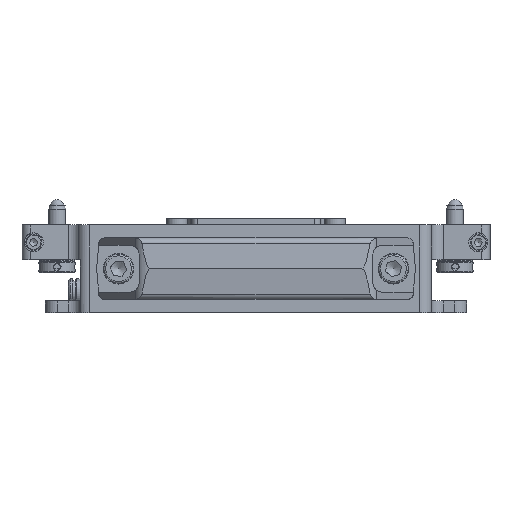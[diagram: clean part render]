
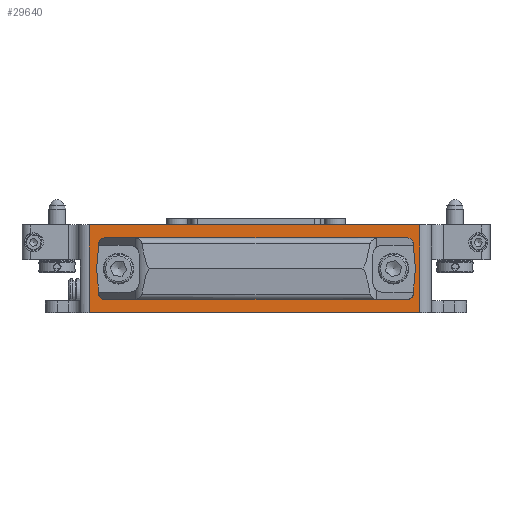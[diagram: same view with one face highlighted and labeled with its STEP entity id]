
A CAD part, left-side view. The second image highlights one B-rep face of the part: STEP entity #29640.
In plain terms, the highlighted planar face has unit normal (-1, 0, 0).
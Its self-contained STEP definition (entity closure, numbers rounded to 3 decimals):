
#1135=CIRCLE('',#31572,3.1);
#1136=CIRCLE('',#31573,3.1);
#2351=FACE_BOUND('',#5142,.T.);
#2352=FACE_BOUND('',#5143,.T.);
#3399=FACE_OUTER_BOUND('',#5141,.T.);
#5141=EDGE_LOOP('',(#22246,#22247,#22248,#22249));
#5142=EDGE_LOOP('',(#22250));
#5143=EDGE_LOOP('',(#22251));
#6990=LINE('',#47199,#9499);
#7394=LINE('',#52312,#9903);
#7395=LINE('',#52316,#9904);
#7396=LINE('',#52317,#9905);
#9499=VECTOR('',#34598,10.);
#9903=VECTOR('',#35306,10.);
#9904=VECTOR('',#35311,10.);
#9905=VECTOR('',#35312,10.);
#12689=VERTEX_POINT('',#47117);
#12729=VERTEX_POINT('',#47197);
#13230=VERTEX_POINT('',#52311);
#13231=VERTEX_POINT('',#52315);
#13232=VERTEX_POINT('',#52318);
#13233=VERTEX_POINT('',#52320);
#15827=EDGE_CURVE('',#12729,#12689,#6990,.T.);
#16541=EDGE_CURVE('',#12689,#13230,#7394,.T.);
#16543=EDGE_CURVE('',#13231,#12729,#7395,.T.);
#16544=EDGE_CURVE('',#13231,#13230,#7396,.T.);
#16545=EDGE_CURVE('',#13232,#13232,#1135,.T.);
#16546=EDGE_CURVE('',#13233,#13233,#1136,.T.);
#22246=ORIENTED_EDGE('',*,*,#16541,.F.);
#22247=ORIENTED_EDGE('',*,*,#15827,.F.);
#22248=ORIENTED_EDGE('',*,*,#16543,.F.);
#22249=ORIENTED_EDGE('',*,*,#16544,.T.);
#22250=ORIENTED_EDGE('',*,*,#16545,.T.);
#22251=ORIENTED_EDGE('',*,*,#16546,.T.);
#28555=PLANE('',#31571);
#29640=ADVANCED_FACE('',(#3399,#2351,#2352),#28555,.T.);
#31571=AXIS2_PLACEMENT_3D('',#52314,#35309,#35310);
#31572=AXIS2_PLACEMENT_3D('',#52319,#35313,#35314);
#31573=AXIS2_PLACEMENT_3D('',#52321,#35315,#35316);
#34598=DIRECTION('',(0.,-1.,0.));
#35306=DIRECTION('',(0.,0.,-1.));
#35309=DIRECTION('center_axis',(-1.,0.,0.));
#35310=DIRECTION('ref_axis',(0.,-1.,0.));
#35311=DIRECTION('',(0.,0.,1.));
#35312=DIRECTION('',(0.,-1.,0.));
#35313=DIRECTION('center_axis',(1.,0.,0.));
#35314=DIRECTION('ref_axis',(0.,0.,-1.));
#35315=DIRECTION('center_axis',(1.,0.,0.));
#35316=DIRECTION('ref_axis',(0.,0.,-1.));
#47117=CARTESIAN_POINT('',(-75.,-56.,30.));
#47197=CARTESIAN_POINT('',(-75.,57.072,30.));
#47199=CARTESIAN_POINT('',(-75.,60.,30.));
#52311=CARTESIAN_POINT('',(-75.,-56.,0.));
#52312=CARTESIAN_POINT('',(-75.,-56.,0.));
#52314=CARTESIAN_POINT('Origin',(-75.,60.,0.));
#52315=CARTESIAN_POINT('',(-75.,57.072,0.));
#52316=CARTESIAN_POINT('',(-75.,57.072,30.));
#52317=CARTESIAN_POINT('',(-75.,60.,0.));
#52318=CARTESIAN_POINT('',(-75.,47.,18.1));
#52319=CARTESIAN_POINT('Origin',(-75.,47.,15.));
#52320=CARTESIAN_POINT('',(-75.,-47.,18.1));
#52321=CARTESIAN_POINT('Origin',(-75.,-47.,15.));
